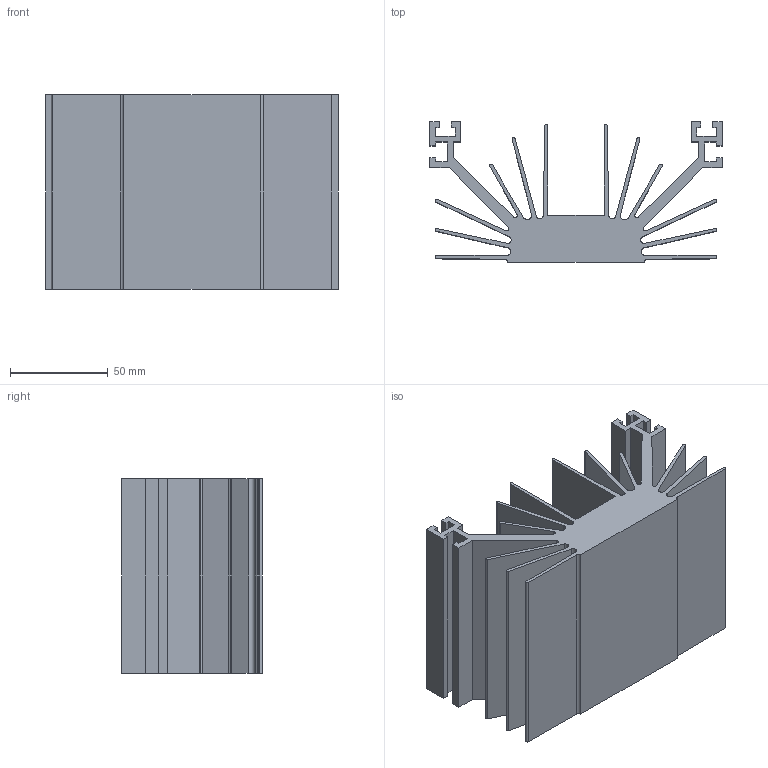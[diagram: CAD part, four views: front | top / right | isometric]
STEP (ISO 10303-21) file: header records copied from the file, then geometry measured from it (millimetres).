
FILE_DESCRIPTION (( 'STEP AP214' ), '1' );
FILE_NAME ('PR386.STEP', '2013-07-08T12:54:36', ( '' ), ( '' ), 'SwSTEP 2.0', 'SolidWorks 2013', '' );
FILE_SCHEMA (( 'AUTOMOTIVE_DESIGN' ));
Length unit declared in the file: millimetre
Products named in the file (1): PR386
Bounding box: 150 x 72 x 100 mm (x, y, z)
Volume: 327967.2 mm3; surface area: 158573.7 mm2
Topology: 1 solids, 1 shells, 112 faces, 330 edges, 220 vertices
Faces by surface type: plane 76, cylinder 36
Entity records: 3760 total; most frequent: CARTESIAN_POINT 663, ORIENTED_EDGE 660, DIRECTION 628, EDGE_CURVE 330, LINE 258, VECTOR 258, VERTEX_POINT 220, AXIS2_PLACEMENT_3D 185
